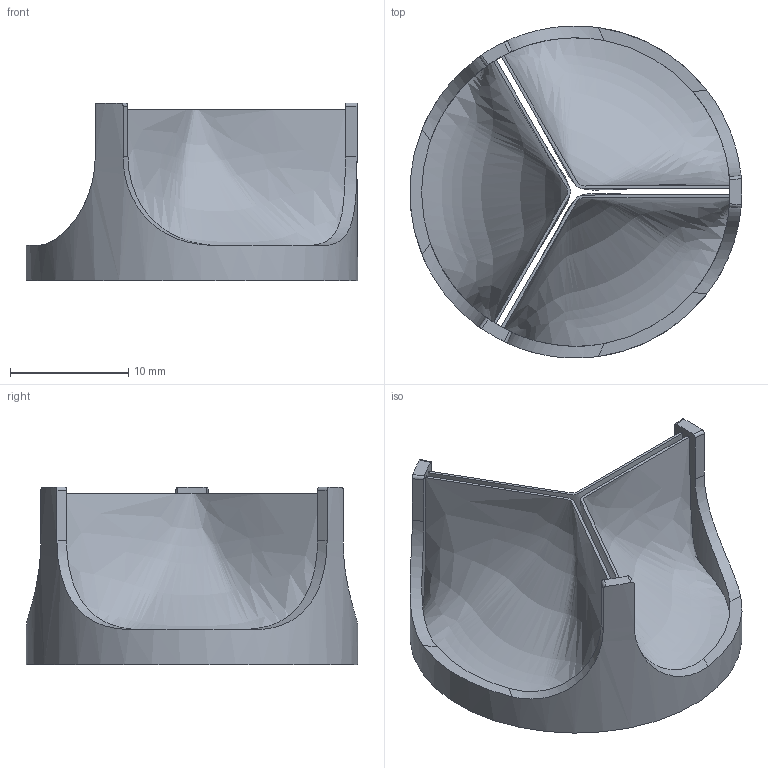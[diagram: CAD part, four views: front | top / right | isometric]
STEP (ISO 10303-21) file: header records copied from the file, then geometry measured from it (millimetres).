
FILE_DESCRIPTION(/* description */ ('STEP AP242','CAx-IF Rec.Pracs.---Representation and Presentation of Product Manufacturing Information (PMI)---4.0---2014-10-13','CAx-IF Rec.Pracs.---3D Tessellated Geometry---0.4---2014-09-14','2;1'),/* implementation_level */ '2;1');
FILE_NAME(/* name */ '6533404fc212dd6868c5252c',/* time_stamp */ '2023-10-21T03:06:56Z',/* author */ (''),/* organization */ (''),/* preprocessor_version */ 'ST-DEVELOPER v19.4',/* originating_system */ ' ',/* authorisation */ ' ');
FILE_SCHEMA (('AP242_MANAGED_MODEL_BASED_3D_ENGINEERING_MIM_LF { 1 0 10303 442 1 1 4 }'));
Length unit declared in the file: metre
Products named in the file (1): Aortic Valve
Bounding box: 28.06 x 28.09 x 15.05 mm (x, y, z)
Volume: 709.8 mm3; surface area: 3373.3 mm2
Topology: 1 solids, 1 shells, 36 faces, 126 edges, 93 vertices
Faces by surface type: plane 16, cylinder 14, bspline 6
Full cylindrical faces by diameter (mm): 26.1 x1, 28.1 x1
Entity records: 2687 total; most frequent: CARTESIAN_POINT 1667, ORIENTED_EDGE 238, DIRECTION 168, EDGE_CURVE 119, VERTEX_POINT 89, AXIS2_PLACEMENT_3D 63, B_SPLINE_CURVE_WITH_KNOTS 45, LINE 42
